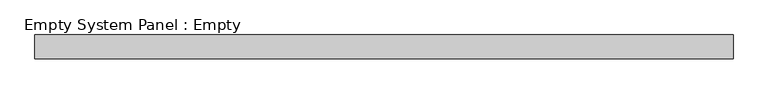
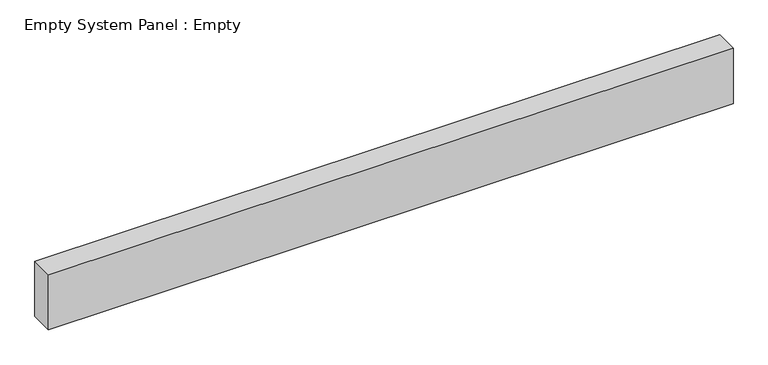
"""IFC4 building model written with IfcOpenShell, lengths in millimetres: plate geometry, Empty System Panel : Empty."""

from ifc_helpers import new_model, si_unit, origin, origin_with_axes, place, context, project, spatial, polyline, outline, extrude, source, transform, mapped, element, save


def empty_system_panel_empty_839ed214(model_context):
    return source(origin(), model_context, "Body", "SweptSolid", [
        extrude(outline(polyline([(1462.5, -50.0), (-1462.5, -50.0), (-1462.5, 50.0), (1462.5, 50.0), (1462.5, -50.0)])), origin_with_axes(), (0.0, 0.0, 1.0), 250.0),
    ])


if __name__ == "__main__":
    model = new_model("IFC4")
    model_context = context("Model", 3, world=origin())
    ifc_project = project(units=[si_unit("LENGTHUNIT", "METRE", prefix="MILLI")], contexts=[model_context])
    site = spatial("IfcSite", under=ifc_project)
    building = spatial("IfcBuilding", under=site)
    placement = place(None, origin())
    empty_system_panel_empty_shape = empty_system_panel_empty_839ed214(model_context)
    element("IfcPlate", 1, ObjectType="Empty System Panel : Empty", at=placement, inside=building, context=model_context, shape_type="MappedRepresentation", body=[
        mapped(empty_system_panel_empty_shape, transform((0.0, 0.0, 0.0), x_axis=(1.0, 0.0, 0.0), y_axis=(0.0, 1.0, 0.0), z_axis=(0.0, 0.0, 1.0))),
    ])
    save(model, "model.ifc")
